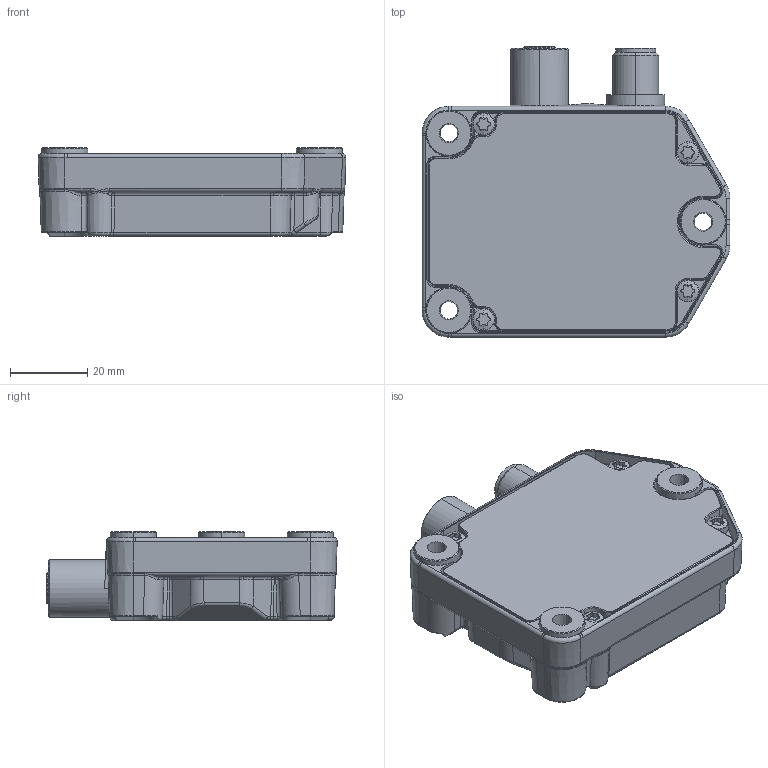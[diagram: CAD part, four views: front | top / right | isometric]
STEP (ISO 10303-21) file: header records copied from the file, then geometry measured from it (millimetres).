
FILE_DESCRIPTION (( 'STEP AP203' ), '1' );
FILE_NAME ('8.IN88.XX21.123.STEP', '2017-01-31T08:22:46', ( '' ), ( '' ), 'SwSTEP 2.0', 'SolidWorks 2013', '' );
FILE_SCHEMA (( 'CONFIG_CONTROL_DESIGN' ));
Length unit declared in the file: millimetre
Products named in the file (1): 8.IN88.XX21.123
Bounding box: 79.93 x 75.38 x 23 mm (x, y, z)
Volume: 47371.2 mm3; surface area: 36475.3 mm2
Topology: 10 solids, 10 shells, 1568 faces, 3749 edges, 2243 vertices
Faces by surface type: cylinder 505, plane 340, cone 267, torus 230, bspline 191, sphere 35
Entity records: 50792 total; most frequent: CARTESIAN_POINT 15422, DIRECTION 7585, ORIENTED_EDGE 7390, EDGE_CURVE 3695, AXIS2_PLACEMENT_3D 3075, VERTEX_POINT 2233, CIRCLE 1697, EDGE_LOOP 1686
